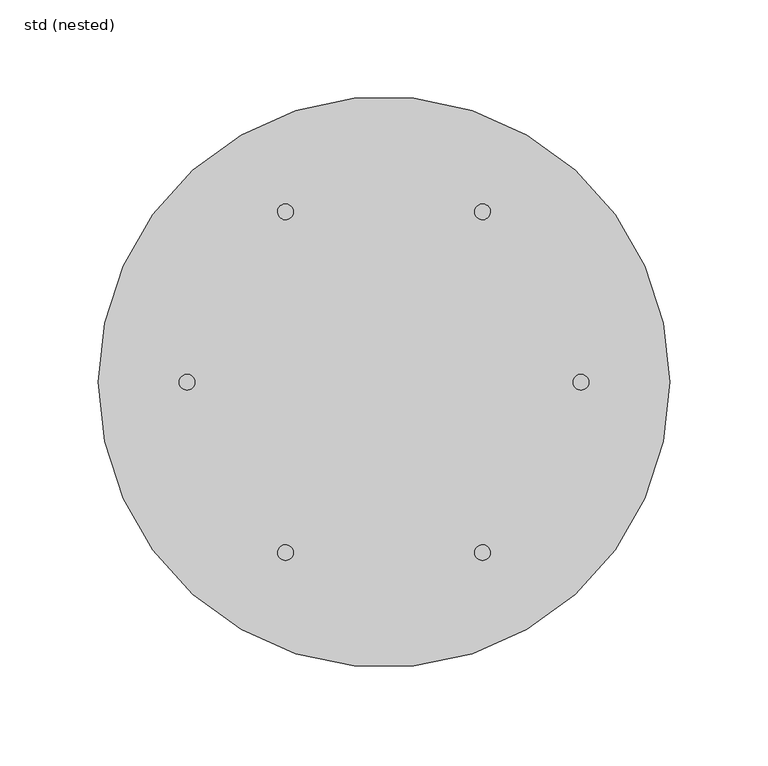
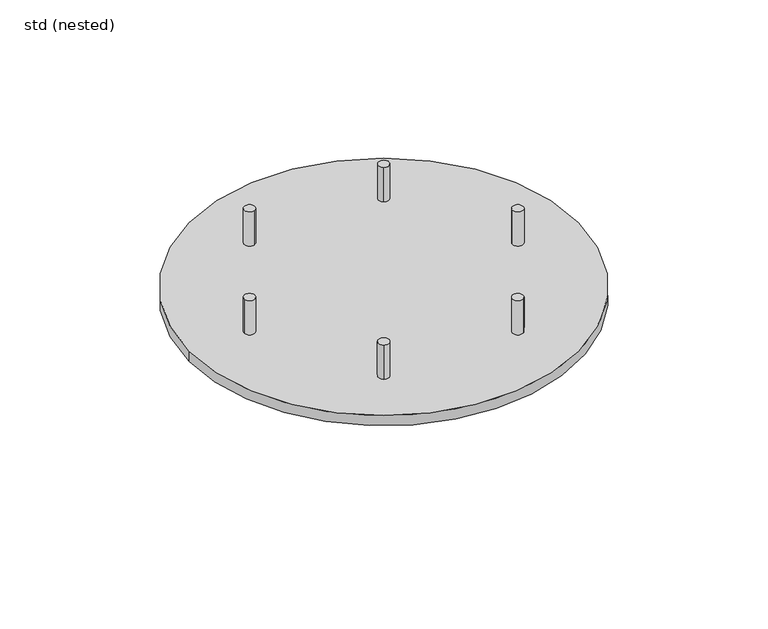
"""IFC4 building model written with IfcOpenShell, lengths in millimetres: sanitary terminal geometry, ZZZ_do not use_PF_CI_WPB_upper part for Passavant Jet_ACO : std (nested)."""

from ifc_helpers import new_model, si_unit, point, frame, frame_2d, origin, origin_with_axes, origin_2d, place, context, project, spatial, circle_curve, trimmed, segment, composite_curve, outline, extrude, source, transform, mapped, element, save
from ifc_brep_helpers import plane_surface, cylinder_surface, advanced_brep


def std_nested_6056e155(model_context):
    return source(origin(), model_context, "Body", "SolidModel", [
        extrude(outline(composite_curve([segment(trimmed(circle_curve(frame_2d((50.0, 86.6025404)), 4.0), [point((52.0, 90.066642))], [point((48.0, 83.1384388))], False, "CARTESIAN"), True, "CONTINUOUS"), segment(trimmed(circle_curve(frame_2d((50.0, 86.6025404)), 4.0), [point((48.0, 83.1384388))], [point((52.0, 90.066642))], False, "CARTESIAN"), True, "CONTINUOUS")], self_intersect=False)), origin_with_axes(), (0.0, 0.0, 1.0), 27.0),
        extrude(outline(composite_curve([segment(trimmed(circle_curve(frame_2d((-50.0, 86.6025404)), 4.0), [point((-52.0, 90.066642))], [point((-48.0, 83.1384388))], False, "CARTESIAN"), True, "CONTINUOUS"), segment(trimmed(circle_curve(frame_2d((-50.0, 86.6025404)), 4.0), [point((-48.0, 83.1384388))], [point((-52.0, 90.066642))], False, "CARTESIAN"), True, "CONTINUOUS")], self_intersect=False)), origin_with_axes(), (0.0, 0.0, 1.0), 27.0),
        extrude(outline(composite_curve([segment(trimmed(circle_curve(frame_2d((-100.0, 0.0)), 4.0), [point((-104.0, 0.0))], [point((-96.0, 0.0))], False, "CARTESIAN"), True, "CONTINUOUS"), segment(trimmed(circle_curve(frame_2d((-100.0, 0.0)), 4.0), [point((-96.0, 0.0))], [point((-104.0, 0.0))], False, "CARTESIAN"), True, "CONTINUOUS")], self_intersect=False)), origin_with_axes(), (0.0, 0.0, 1.0), 27.0),
        extrude(outline(composite_curve([segment(trimmed(circle_curve(frame_2d((-50.0, -86.6025404)), 4.0), [point((-52.0, -90.066642))], [point((-48.0, -83.1384388))], False, "CARTESIAN"), True, "CONTINUOUS"), segment(trimmed(circle_curve(frame_2d((-50.0, -86.6025404)), 4.0), [point((-48.0, -83.1384388))], [point((-52.0, -90.066642))], False, "CARTESIAN"), True, "CONTINUOUS")], self_intersect=False)), origin_with_axes(), (0.0, 0.0, 1.0), 27.0),
        extrude(outline(composite_curve([segment(trimmed(circle_curve(frame_2d((50.0, -86.6025404)), 4.0), [point((52.0, -90.066642))], [point((48.0, -83.1384388))], False, "CARTESIAN"), True, "CONTINUOUS"), segment(trimmed(circle_curve(frame_2d((50.0, -86.6025404)), 4.0), [point((48.0, -83.1384388))], [point((52.0, -90.066642))], False, "CARTESIAN"), True, "CONTINUOUS")], self_intersect=False)), origin_with_axes(), (0.0, 0.0, 1.0), 27.0),
        extrude(outline(composite_curve([segment(trimmed(circle_curve(frame_2d((100.0, 0.0)), 4.0), [point((104.0, 0.0))], [point((96.0, 0.0))], False, "CARTESIAN"), True, "CONTINUOUS"), segment(trimmed(circle_curve(frame_2d((100.0, 0.0)), 4.0), [point((96.0, 0.0))], [point((104.0, 0.0))], False, "CARTESIAN"), True, "CONTINUOUS")], self_intersect=False)), origin_with_axes(), (0.0, 0.0, 1.0), 27.0),
        extrude(outline(composite_curve([segment(trimmed(circle_curve(origin_2d(), 54.5), [point((-54.5, 0.0))], [point((54.5, 0.0))], False, "CARTESIAN"), True, "CONTINUOUS"), segment(trimmed(circle_curve(origin_2d(), 54.5), [point((54.5, 0.0))], [point((-54.5, 0.0))], False, "CARTESIAN"), True, "CONTINUOUS")], self_intersect=False)), frame((0.0, 0.0, -70.0), z_axis=(0.0, 0.0, 1.0), x_axis=(1.0, 0.0, 0.0)), (0.0, 0.0, 1.0), 15.0),
        advanced_brep(
        [(0.0, -63.5, -55.0), (0.0, 63.5, -55.0), (0.0, 63.5, -8.0), (0.0, -63.5, -8.0), (-145.0, 0.0, -8.0), (145.0, 0.0, -8.0), (-145.0, 0.0, 0.0), (145.0, 0.0, 0.0)],
        [
            (0, 1, circle_curve(frame((0.0, 0.0, -55.0), z_axis=(0.0, 0.0, -1.0), x_axis=(0.0, 1.0, 0.0)), 63.5)),
            (1, 0, circle_curve(frame((0.0, 0.0, -55.0), z_axis=(0.0, 0.0, -1.0), x_axis=(0.0, 1.0, 0.0)), 63.5)),
            (1, 2),
            (2, 3, circle_curve(frame((0.0, 0.0, -8.0), z_axis=(0.0, 0.0, -1.0), x_axis=(0.0, 1.0, 0.0)), 63.5)),
            (3, 0),
            (3, 2, circle_curve(frame((0.0, 0.0, -8.0), z_axis=(0.0, 0.0, -1.0), x_axis=(0.0, 1.0, 0.0)), 63.5)),
            (4, 5, circle_curve(frame((0.0, 0.0, -8.0), z_axis=(0.0, 0.0, -1.0), x_axis=(1.0, 0.0, 0.0)), 145.0)),
            (5, 4, circle_curve(frame((0.0, 0.0, -8.0), z_axis=(0.0, 0.0, -1.0), x_axis=(1.0, 0.0, 0.0)), 145.0)),
            (6, 7, circle_curve(origin_with_axes(), 145.0)),
            (7, 6, circle_curve(origin_with_axes(), 145.0)),
            (5, 7),
            (6, 4),
        ],
        [
            plane_surface(frame((0.0, 63.5, -55.0), z_axis=(0.0, 0.0, -1.0), x_axis=(1.0, 0.0, 0.0))),
            cylinder_surface(frame((0.0, 0.0, -55.0), z_axis=(0.0, 0.0, 1.0), x_axis=(0.0, 1.0, 0.0)), 63.5),
            plane_surface(frame((145.0, 0.0, -8.0), z_axis=(0.0, 0.0, -1.0), x_axis=(0.0, -1.0, 0.0))),
            plane_surface(frame((145.0, 0.0, 0.0), z_axis=(0.0, 0.0, 1.0), x_axis=(0.0, 1.0, 0.0))),
            cylinder_surface(frame((0.0, 0.0, -8.0), z_axis=(0.0, 0.0, 1.0), x_axis=(1.0, 0.0, 0.0)), 145.0),
        ],
        [
            (0, [[1, 2]]),
            (1, [[-2, 3, 4, 5]]),
            (1, [[-1, -5, 6, -3]]),
            (2, [[7, 8], [-4, -6]]),
            (3, [[9, 10]]),
            (4, [[-8, 11, -9, 12]]),
            (4, [[-7, -12, -10, -11]]),
        ],
    ),
    ])


if __name__ == "__main__":
    model = new_model("IFC4")
    model_context = context("Model", 3, world=origin())
    ifc_project = project(units=[si_unit("LENGTHUNIT", "METRE", prefix="MILLI")], contexts=[model_context])
    site = spatial("IfcSite", under=ifc_project)
    building = spatial("IfcBuilding", under=site)
    placement = place(None, origin())
    std_nested_shape = std_nested_6056e155(model_context)
    element("IfcSanitaryTerminal", 1, ObjectType="ZZZ_do not use_PF_CI_WPB_upper part for Passavant Jet_ACO : std (nested)", at=placement, inside=building, context=model_context, shape_type="MappedRepresentation", body=[
        mapped(std_nested_shape, transform((0.0, 0.0, 0.0), x_axis=(1.0, 0.0, 0.0), y_axis=(0.0, 1.0, 0.0), z_axis=(0.0, 0.0, 1.0))),
    ])
    save(model, "model.ifc")
